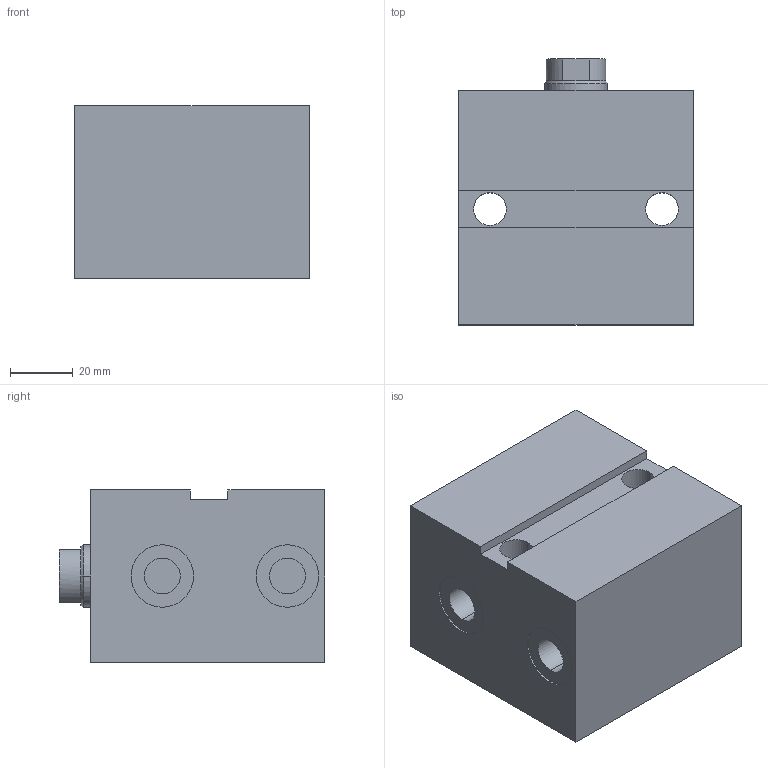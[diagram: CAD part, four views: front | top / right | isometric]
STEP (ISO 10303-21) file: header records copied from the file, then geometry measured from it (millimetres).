
FILE_DESCRIPTION (( 'STEP AP203' ), '1' );
FILE_NAME ('GERMA_Blockzylinder_602-032-025.STEP', '2015-06-20T18:12:52', ( '' ), ( '' ), 'SwSTEP 2.0', 'SolidWorks 2013', '' );
FILE_SCHEMA (( 'CONFIG_CONTROL_DESIGN' ));
Length unit declared in the file: millimetre
Products named in the file (3): Kolben 60x-032_Kolben DU.32-Hub25-IG; GERMA_Blockzylinder_602-032-025; GH-600-032_GH-602-032-025
Assembly tree (2 placements, depth 2):
  GERMA_Blockzylinder_602-032-025
    GH-600-032_GH-602-032-025
    Kolben 60x-032_Kolben DU.32-Hub25-IG
Bounding box: 75 x 85 x 55 mm (x, y, z)
Volume: 283053.9 mm3; surface area: 46257.4 mm2
Topology: 2 solids, 2 shells, 73 faces, 160 edges, 98 vertices
Faces by surface type: cylinder 33, plane 26, cone 14
Entity records: 2286 total; most frequent: DIRECTION 387, CARTESIAN_POINT 330, ORIENTED_EDGE 308, AXIS2_PLACEMENT_3D 155, EDGE_CURVE 154, VERTEX_POINT 98, EDGE_LOOP 90, LINE 77
